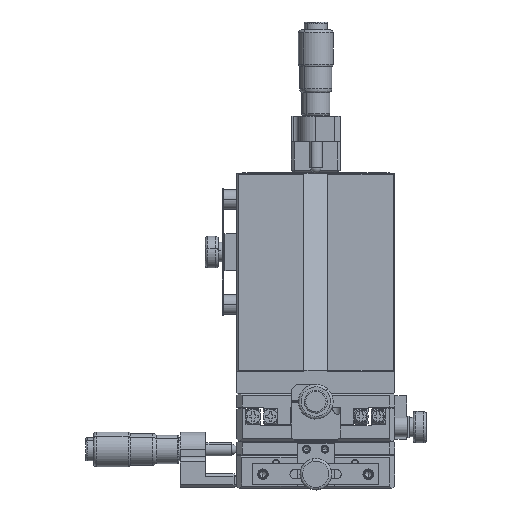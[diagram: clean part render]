
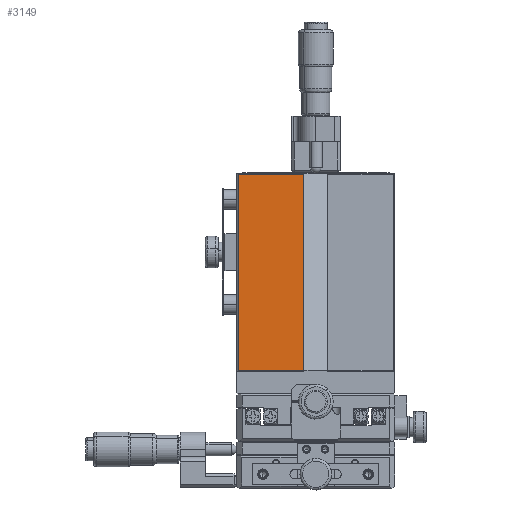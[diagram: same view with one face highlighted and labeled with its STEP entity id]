
A CAD part, top view. The second image highlights one B-rep face of the part: STEP entity #3149.
In plain terms, the highlighted planar face has unit normal (0, 0, 1).
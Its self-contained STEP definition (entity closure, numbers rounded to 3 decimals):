
#464 = VERTEX_POINT ( 'NONE', #2599 ) ;
#940 = LINE ( 'NONE', #2189, #15133 ) ;
#994 = CARTESIAN_POINT ( 'NONE',  ( -4.5, -33., 9. ) ) ;
#1063 = VERTEX_POINT ( 'NONE', #3948 ) ;
#1286 = CARTESIAN_POINT ( 'NONE',  ( -4.5, 42., 9. ) ) ;
#1578 = EDGE_CURVE ( 'NONE', #1063, #10366, #8949, .T. ) ;
#1973 = ORIENTED_EDGE ( 'NONE', *, *, #7875, .T. ) ;
#2189 = CARTESIAN_POINT ( 'NONE',  ( -29.5, -33., 9. ) ) ;
#2329 = PLANE ( 'NONE',  #12511 ) ;
#2599 = CARTESIAN_POINT ( 'NONE',  ( -29.5, -33., 9. ) ) ;
#2617 = DIRECTION ( 'NONE',  ( 0., -1., 0. ) ) ;
#3149 = ADVANCED_FACE ( 'NONE', ( #4728 ), #2329, .T. ) ;
#3948 = CARTESIAN_POINT ( 'NONE',  ( -4.5, 41.5, 9. ) ) ;
#4728 = FACE_OUTER_BOUND ( 'NONE', #13591, .T. ) ;
#5052 = DIRECTION ( 'NONE',  ( 0., 0., 1. ) ) ;
#5566 = VECTOR ( 'NONE', #8190, 1000. ) ;
#5730 = LINE ( 'NONE', #1286, #12661 ) ;
#6815 = CARTESIAN_POINT ( 'NONE',  ( 62., -33., 9. ) ) ;
#7183 = ORIENTED_EDGE ( 'NONE', *, *, #15883, .F. ) ;
#7875 = EDGE_CURVE ( 'NONE', #10366, #464, #940, .T. ) ;
#8040 = ORIENTED_EDGE ( 'NONE', *, *, #1578, .T. ) ;
#8110 = DIRECTION ( 'NONE',  ( -1., 0., 0. ) ) ;
#8173 = CARTESIAN_POINT ( 'NONE',  ( -30., 41.5, 9. ) ) ;
#8190 = DIRECTION ( 'NONE',  ( -1., 0., 0. ) ) ;
#8949 = LINE ( 'NONE', #8173, #12638 ) ;
#9524 = CARTESIAN_POINT ( 'NONE',  ( -29.5, 41.5, 9. ) ) ;
#9947 = ORIENTED_EDGE ( 'NONE', *, *, #17613, .F. ) ;
#10366 = VERTEX_POINT ( 'NONE', #9524 ) ;
#10436 = DIRECTION ( 'NONE',  ( 0., -1., 0. ) ) ;
#10582 = CARTESIAN_POINT ( 'NONE',  ( 62., 0., 9. ) ) ;
#10797 = VERTEX_POINT ( 'NONE', #994 ) ;
#12511 = AXIS2_PLACEMENT_3D ( 'NONE', #10582, #5052, #14703 ) ;
#12638 = VECTOR ( 'NONE', #8110, 1000. ) ;
#12661 = VECTOR ( 'NONE', #2617, 1000. ) ;
#13591 = EDGE_LOOP ( 'NONE', ( #9947, #8040, #1973, #7183 ) ) ;
#14703 = DIRECTION ( 'NONE',  ( 1., 0., 0. ) ) ;
#15133 = VECTOR ( 'NONE', #10436, 1000. ) ;
#15883 = EDGE_CURVE ( 'NONE', #10797, #464, #17016, .T. ) ;
#17016 = LINE ( 'NONE', #6815, #5566 ) ;
#17613 = EDGE_CURVE ( 'NONE', #1063, #10797, #5730, .T. ) ;
